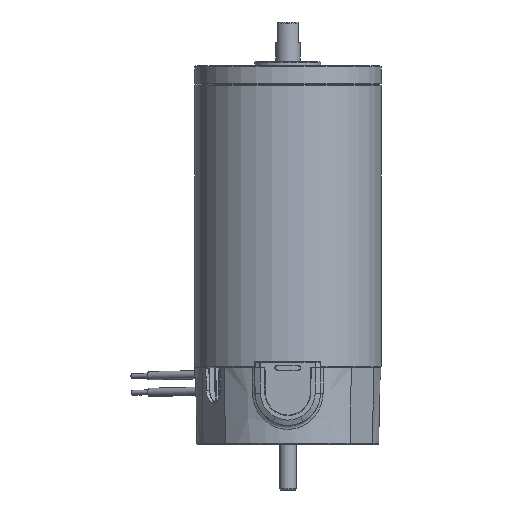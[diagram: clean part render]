
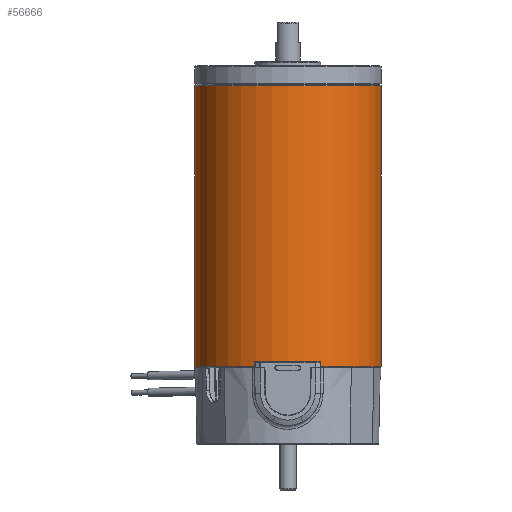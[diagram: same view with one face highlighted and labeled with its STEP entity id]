
A CAD part, front view. The second image highlights one B-rep face of the part: STEP entity #56666.
In plain terms, the highlighted cylindrical face has radius 45 mm (diameter 90 mm), a partial arc.
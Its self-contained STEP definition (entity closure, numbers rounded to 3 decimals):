
#178 = CARTESIAN_POINT ( 'NONE',  ( 0., -45., -166.4 ) ) ;
#1775 = AXIS2_PLACEMENT_3D ( 'NONE', #28896, #33046, #59773 ) ;
#5690 = CARTESIAN_POINT ( 'NONE',  ( 0., 0., -30.75 ) ) ;
#7170 = VERTEX_POINT ( 'NONE', #53534 ) ;
#7407 = AXIS2_PLACEMENT_3D ( 'NONE', #5690, #10517, #11474 ) ;
#8210 = CARTESIAN_POINT ( 'NONE',  ( 0., 0., -166.4 ) ) ;
#10517 = DIRECTION ( 'NONE',  ( 0., 0., -1. ) ) ;
#11164 = CARTESIAN_POINT ( 'NONE',  ( 0., 0., -166.4 ) ) ;
#11474 = DIRECTION ( 'NONE',  ( -1., 0., 0. ) ) ;
#11856 = DIRECTION ( 'NONE',  ( 0., 0., 1. ) ) ;
#12927 = VECTOR ( 'NONE', #17111, 1000. ) ;
#14020 = FACE_OUTER_BOUND ( 'NONE', #57772, .T. ) ;
#16712 = DIRECTION ( 'NONE',  ( 1., 0., 0. ) ) ;
#17021 = AXIS2_PLACEMENT_3D ( 'NONE', #8210, #65861, #35020 ) ;
#17111 = DIRECTION ( 'NONE',  ( 0., 0., 1. ) ) ;
#20214 = LINE ( 'NONE', #41173, #67718 ) ;
#20754 = VERTEX_POINT ( 'NONE', #178 ) ;
#26469 = ORIENTED_EDGE ( 'NONE', *, *, #51923, .T. ) ;
#27431 = LINE ( 'NONE', #64111, #12927 ) ;
#28455 = CARTESIAN_POINT ( 'NONE',  ( -45., 0., -30.75 ) ) ;
#28896 = CARTESIAN_POINT ( 'NONE',  ( 0., 0., -166.4 ) ) ;
#30579 = DIRECTION ( 'NONE',  ( 0., 0., 1. ) ) ;
#32429 = ORIENTED_EDGE ( 'NONE', *, *, #51484, .T. ) ;
#32900 = EDGE_CURVE ( 'NONE', #49044, #45926, #27431, .T. ) ;
#33046 = DIRECTION ( 'NONE',  ( 0., 0., 1. ) ) ;
#33277 = ORIENTED_EDGE ( 'NONE', *, *, #63563, .T. ) ;
#33662 = CIRCLE ( 'NONE', #1775, 45. ) ;
#34319 = CYLINDRICAL_SURFACE ( 'NONE', #17021, 45. ) ;
#35020 = DIRECTION ( 'NONE',  ( 1., 0., 0. ) ) ;
#39015 = AXIS2_PLACEMENT_3D ( 'NONE', #11164, #11856, #16712 ) ;
#41173 = CARTESIAN_POINT ( 'NONE',  ( 45., 0., -166.4 ) ) ;
#45926 = VERTEX_POINT ( 'NONE', #28455 ) ;
#46076 = CARTESIAN_POINT ( 'NONE',  ( -45., 0., -166.4 ) ) ;
#48513 = VERTEX_POINT ( 'NONE', #58218 ) ;
#49044 = VERTEX_POINT ( 'NONE', #46076 ) ;
#51323 = ORIENTED_EDGE ( 'NONE', *, *, #32900, .F. ) ;
#51484 = EDGE_CURVE ( 'NONE', #7170, #48513, #20214, .T. ) ;
#51923 = EDGE_CURVE ( 'NONE', #48513, #45926, #65535, .T. ) ;
#53534 = CARTESIAN_POINT ( 'NONE',  ( 45., 0., -166.4 ) ) ;
#56666 = ADVANCED_FACE ( 'NONE', ( #14020 ), #34319, .T. ) ;
#57761 = EDGE_CURVE ( 'NONE', #20754, #7170, #60994, .T. ) ;
#57772 = EDGE_LOOP ( 'NONE', ( #51323, #33277, #58221, #32429, #26469 ) ) ;
#58218 = CARTESIAN_POINT ( 'NONE',  ( 45., 0., -30.75 ) ) ;
#58221 = ORIENTED_EDGE ( 'NONE', *, *, #57761, .T. ) ;
#59773 = DIRECTION ( 'NONE',  ( 1., 0., 0. ) ) ;
#60994 = CIRCLE ( 'NONE', #39015, 45. ) ;
#63563 = EDGE_CURVE ( 'NONE', #49044, #20754, #33662, .T. ) ;
#64111 = CARTESIAN_POINT ( 'NONE',  ( -45., 0., -166.4 ) ) ;
#65535 = CIRCLE ( 'NONE', #7407, 45. ) ;
#65861 = DIRECTION ( 'NONE',  ( 0., 0., 1. ) ) ;
#67718 = VECTOR ( 'NONE', #30579, 1000. ) ;
